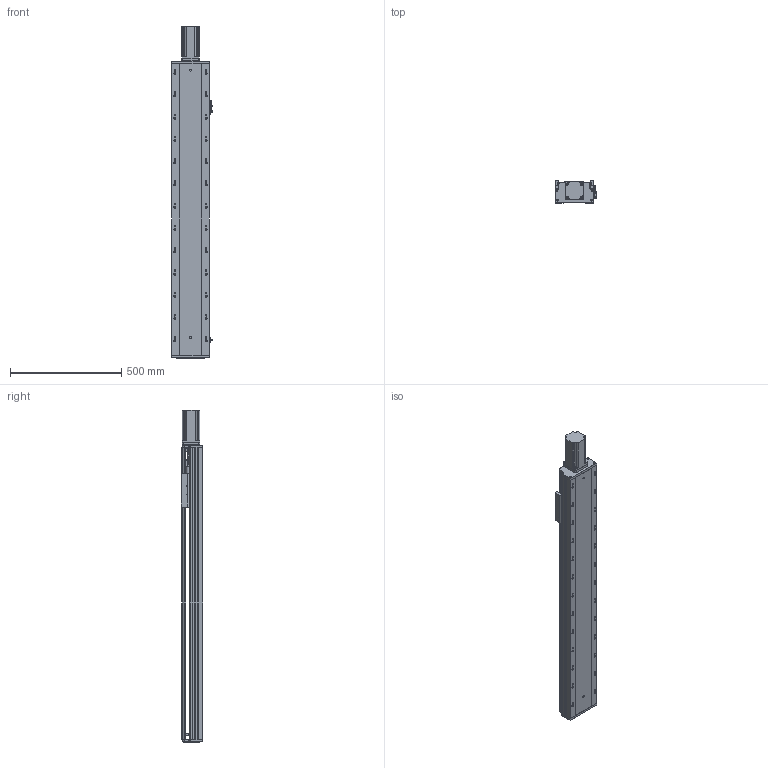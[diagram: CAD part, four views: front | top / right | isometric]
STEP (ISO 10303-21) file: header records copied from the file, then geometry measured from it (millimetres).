
FILE_DESCRIPTION (( 'STEP AP203' ), '1' );
FILE_NAME ('RY170-L2510-300-MK(FK17).SLDASM_1000.step', '2022-08-23T02:00:47', ( '' ), ( '' ), 'SwSTEP 2.0', 'SolidWorks 2016', '' );
FILE_SCHEMA (( 'CONFIG_CONTROL_DESIGN' ));
Length unit declared in the file: millimetre
Products named in the file (15): RY170ヶ醱裔啣; 覜茼ん672; 15; 侂狟750W萇儂ㄗ80遺ㄘ; RY170綴裔啣; RY170-L2510-300-MK(FK17).SLDASM_1000; RY170-300倰第菁釱-MK_1000; RY170电机端支撑座(25丝杆7004轴承)-压铸(FK17); 滅袉蝶18-10; RY170-300倰第裔啣-MK_1000; RY170外置感应片(200共用）; RY170臏賑輸25佪裝蹟譫; 750W萇儂梓袧蛌諉啣; 滅袉蝶18-28; 侂狟400W侜督萇儂
Assembly tree (16 placements, depth 3):
  RY170-L2510-300-MK(FK17).SLDASM_1000
    RY170-300倰第菁釱-MK_1000
    RY170-300倰第裔啣-MK_1000
    RY170臏賑輸25佪裝蹟譫
    侂狟400W侜督萇儂
      15
    RY170綴裔啣
    RY170电机端支撑座(25丝杆7004轴承)-压铸(FK17)
    覜茼ん672  x3
    RY170外置感应片(200共用）
    RY170ヶ醱裔啣
    滅袉蝶18-28
    滅袉蝶18-10
    侂狟750W萇儂ㄗ80遺ㄘ
    750W萇儂梓袧蛌諉啣
Bounding box: 183.7 x 97 x 1491 mm (x, y, z)
Volume: 7720845.2 mm3; surface area: 2306206.9 mm2
Topology: 15 solids, 15 shells, 2323 faces, 6807 edges, 4348 vertices
Faces by surface type: cylinder 1018, plane 1014, cone 255, bspline 36
Entity records: 77299 total; most frequent: CARTESIAN_POINT 18708, ORIENTED_EDGE 12298, DIRECTION 11639, EDGE_CURVE 6149, AXIS2_PLACEMENT_3D 4076, VERTEX_POINT 4028, VECTOR 3487, LINE 3487
